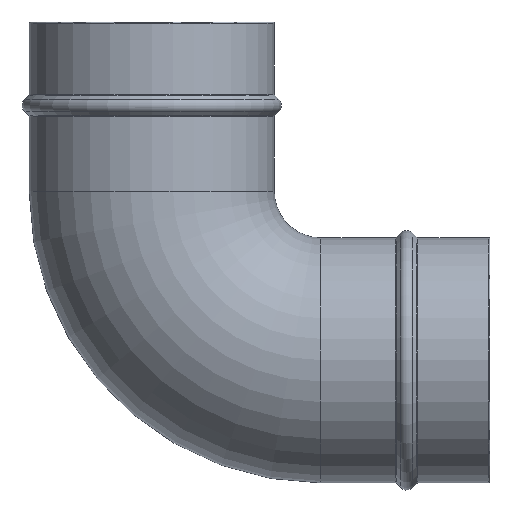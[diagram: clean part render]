
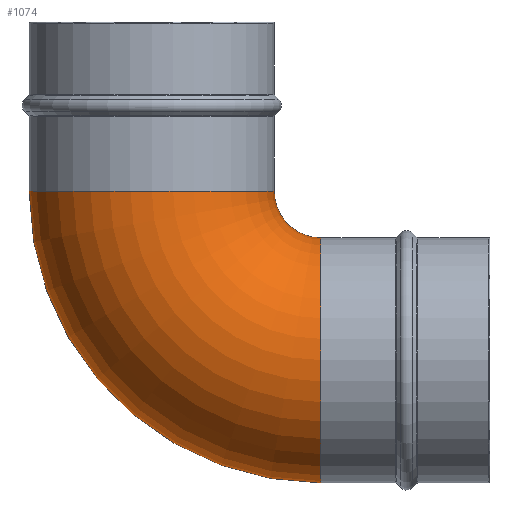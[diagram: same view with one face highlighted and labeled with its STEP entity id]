
A CAD part, top view. The second image highlights one B-rep face of the part: STEP entity #1074.
In plain terms, the highlighted toroidal (fillet/blend) face has major radius 70 mm and minor radius 50.75 mm.
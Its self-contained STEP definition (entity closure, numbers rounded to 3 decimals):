
#188=CARTESIAN_POINT('',(70.,0.,0.));
#189=DIRECTION('',(1.,0.,0.));
#190=DIRECTION('',(0.,1.,0.));
#191=AXIS2_PLACEMENT_3D('',#188,#189,#190);
#273=CARTESIAN_POINT('',(70.,70.,0.));
#274=DIRECTION('',(0.,0.,1.));
#275=DIRECTION('',(-1.,0.,0.));
#276=AXIS2_PLACEMENT_3D('',#273,#274,#275);
#373=CARTESIAN_POINT('',(0.,70.,0.));
#374=DIRECTION('',(0.,-1.,0.));
#375=DIRECTION('',(1.,0.,0.));
#376=AXIS2_PLACEMENT_3D('',#373,#374,#375);
#381=CARTESIAN_POINT('',(70.,70.,0.));
#382=DIRECTION('',(0.,0.,1.));
#383=DIRECTION('',(-1.,0.,0.));
#384=AXIS2_PLACEMENT_3D('',#381,#382,#383);
#673=CARTESIAN_POINT('',(50.75,70.,0.));
#674=CARTESIAN_POINT('',(-50.75,70.,0.));
#675=VERTEX_POINT('',#673);
#676=VERTEX_POINT('',#674);
#681=CARTESIAN_POINT('',(70.,50.75,0.));
#682=CARTESIAN_POINT('',(70.,-50.75,0.));
#683=VERTEX_POINT('',#681);
#684=VERTEX_POINT('',#682);
#1063=CARTESIAN_POINT('',(70.,70.,0.));
#1064=DIRECTION('',(0.,0.,1.));
#1065=DIRECTION('',(1.,0.,0.));
#1066=AXIS2_PLACEMENT_3D('',#1063,#1064,#1065);
#1067=TOROIDAL_SURFACE('',#1066,70.,50.75);
#1068=ORIENTED_EDGE('',*,*,#1043,.F.);
#1069=ORIENTED_EDGE('',*,*,#971,.T.);
#1070=ORIENTED_EDGE('',*,*,#914,.T.);
#1071=ORIENTED_EDGE('',*,*,#968,.F.);
#1072=EDGE_LOOP('',(#1068,#1069,#1070,#1071));
#1073=FACE_OUTER_BOUND('',#1072,.F.);
#192=CIRCLE('',#191,50.75);
#277=CIRCLE('',#276,120.75);
#377=CIRCLE('',#376,50.75);
#385=CIRCLE('',#384,19.25);
#914=EDGE_CURVE('',#683,#684,#192,.T.);
#968=EDGE_CURVE('',#676,#684,#277,.T.);
#971=EDGE_CURVE('',#675,#683,#385,.T.);
#1043=EDGE_CURVE('',#675,#676,#377,.T.);
#1074=ADVANCED_FACE('',(#1073),#1067,.T.);
